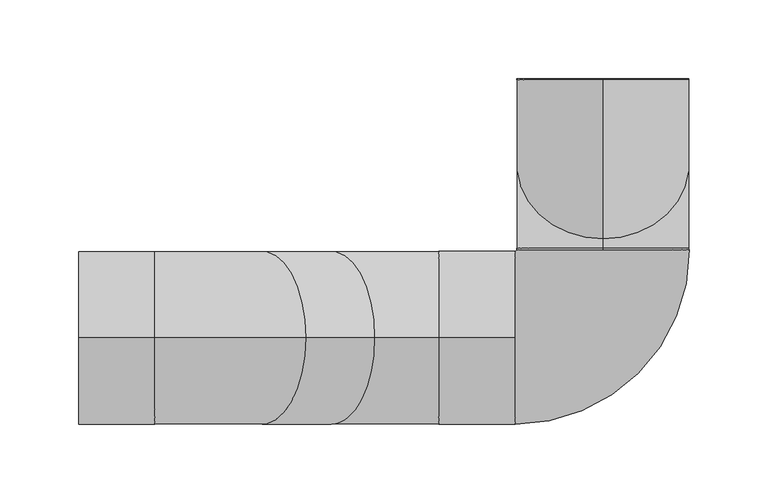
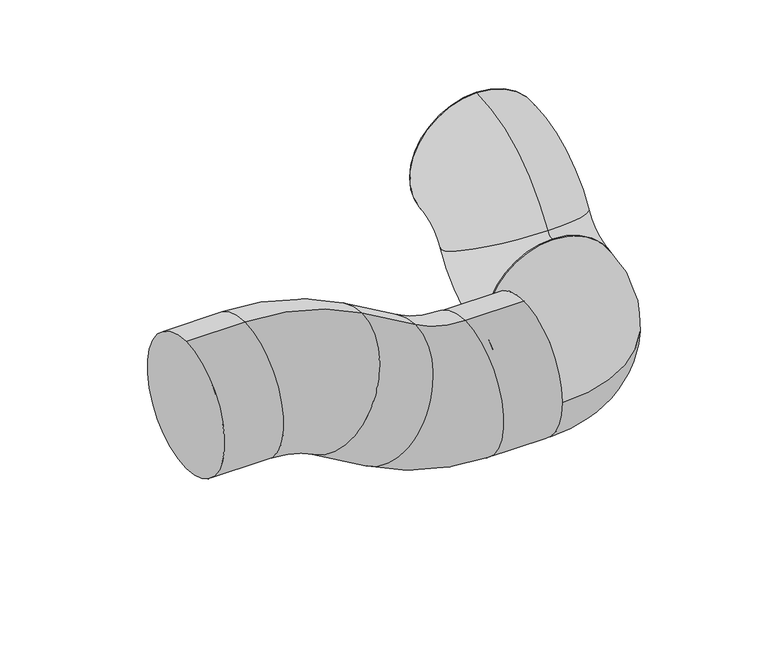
"""IFC4 building model written with IfcOpenShell, lengths in millimetres: pipe fitting geometry, NLRS_52_PIF_UN_PE BackFlip bocht_geb : DN100 / ø110."""

from ifc_helpers import new_model, si_unit, point, frame, origin, place, context, project, spatial, circle_curve, ellipse_curve, trimmed, source, transform, mapped, element, save
from ifc_brep_helpers import plane_surface, cylinder_surface, revolved_surface, advanced_brep


def pipe_fitting_01506ed9(model_context):
    return source(origin(), model_context, "Body", "AdvancedBrep", [
        advanced_brep(
        [(0.0, 56.0, -117.0), (0.0, 56.806425, -117.0), (0.0, 56.806425, -7.0), (0.0, 56.0, -7.0), (55.0, 56.0, -62.0), (-55.0, 56.0, -62.0), (0.0, 158.1313972, -58.5), (0.0, 62.8686028, -3.5), (0.0, 164.193575, 55.0), (0.0, 164.193575, -55.0), (0.0, 165.0, -55.0), (0.0, 165.0, 55.0), (-56.0, 55.0, -62.0), (-56.0, 0.0, -7.0), (-56.0, -55.0, -62.0), (-56.0, 0.0, -117.0), (-189.4393102, 0.0, 29.2980639), (-285.3602417, 0.0, 55.0), (-285.3602417, 0.0, -55.0), (-244.4393102, 0.0, -65.9647305), (-200.5606898, 0.0, -91.2980639), (-145.5606898, 0.0, 3.9647305), (-104.6397583, 0.0, -117.0), (-104.6397583, 0.0, -7.0), (-334.0, 0.0, -55.0), (-334.0, 0.0, 55.0)],
        [
            (0, 1),
            (1, 2, circle_curve(frame((0.0, 56.806425, -62.0), z_axis=(0.0, -1.0, 0.0), x_axis=(0.0, 0.0, 1.0)), 55.0)),
            (2, 3),
            (3, 4, circle_curve(frame((0.0, 56.0, -62.0), z_axis=(0.0, 1.0, 0.0), x_axis=(0.0, 0.0, 1.0)), 55.0)),
            (4, 0, circle_curve(frame((0.0, 56.0, -62.0), z_axis=(0.0, 1.0, 0.0), x_axis=(0.0, 0.0, 1.0)), 55.0)),
            (0, 5, circle_curve(frame((0.0, 56.0, -62.0), z_axis=(0.0, 1.0, 0.0), x_axis=(0.0, 0.0, 1.0)), 55.0)),
            (5, 3, circle_curve(frame((0.0, 56.0, -62.0), z_axis=(0.0, 1.0, 0.0), x_axis=(0.0, 0.0, 1.0)), 55.0)),
            (2, 1, circle_curve(frame((0.0, 56.806425, -62.0), z_axis=(0.0, -1.0, 0.0), x_axis=(0.0, 0.0, 1.0)), 55.0)),
            (1, 6, circle_curve(frame((0.0, 56.806425, 0.0), z_axis=(1.0, 0.0, 0.0), x_axis=(0.0, 0.0, -1.0)), 117.0)),
            (6, 7, circle_curve(frame((0.0, 110.5, -31.0), z_axis=(0.0, -0.4999999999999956, -0.8660254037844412), x_axis=(0.0, -0.8660254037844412, 0.4999999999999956)), 55.0)),
            (7, 2, circle_curve(frame((0.0, 56.806425, 0.0), z_axis=(-1.0, 0.0, 0.0), x_axis=(0.0, 0.0, -1.0)), 7.0)),
            (7, 6, circle_curve(frame((0.0, 110.5, -31.0), z_axis=(0.0, -0.4999999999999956, -0.8660254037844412), x_axis=(0.0, -0.8660254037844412, 0.4999999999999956)), 55.0)),
            (8, 7, circle_curve(frame((0.0, 164.193575, -62.0), z_axis=(1.0, 0.0, 0.0), x_axis=(0.0, -0.8660254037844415, 0.4999999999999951)), 117.0)),
            (6, 9, circle_curve(frame((0.0, 164.193575, -62.0), z_axis=(-1.0, 0.0, 0.0), x_axis=(0.0, -0.8660254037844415, 0.4999999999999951)), 7.0)),
            (9, 8, circle_curve(frame((0.0, 164.193575, 0.0), z_axis=(0.0, -1.0, 0.0), x_axis=(0.0, 0.0, 1.0)), 55.0)),
            (8, 9, circle_curve(frame((0.0, 164.193575, 0.0), z_axis=(0.0, -1.0, 0.0), x_axis=(0.0, 0.0, 1.0)), 55.0)),
            (10, 11, circle_curve(frame((0.0, 165.0, 0.0), z_axis=(0.0, 1.0, 0.0), x_axis=(0.0, 0.0, 1.0)), 55.0)),
            (11, 10, circle_curve(frame((0.0, 165.0, 0.0), z_axis=(0.0, 1.0, 0.0), x_axis=(0.0, 0.0, 1.0)), 55.0)),
            (9, 10),
            (11, 8),
            (5, 12, circle_curve(frame((-56.0, 56.0, -62.0), z_axis=(0.0, 0.0, -1.0), x_axis=(0.0, -1.0, 0.0)), 1.0)),
            (12, 13, circle_curve(frame((-56.0, 0.0, -62.0), z_axis=(1.0, 0.0, 0.0), x_axis=(0.0, 1.0, 0.0)), 55.0)),
            (13, 14, circle_curve(frame((-56.0, 0.0, -62.0), z_axis=(1.0, 0.0, 0.0), x_axis=(0.0, 1.0, 0.0)), 55.0)),
            (14, 4, circle_curve(frame((-56.0, 56.0, -62.0), z_axis=(0.0, 0.0, 1.0), x_axis=(0.0, -1.0, 0.0)), 111.0)),
            (14, 15, circle_curve(frame((-56.0, 0.0, -62.0), z_axis=(1.0, 0.0, 0.0), x_axis=(0.0, 1.0, 0.0)), 55.0)),
            (15, 12, circle_curve(frame((-56.0, 0.0, -62.0), z_axis=(1.0, 0.0, 0.0), x_axis=(0.0, 1.0, 0.0)), 55.0)),
            (16, 17, circle_curve(frame((-285.3602417, 0.0, -136.8418629), z_axis=(0.0, -1.0, 0.0), x_axis=(0.0, 0.0, 1.0)), 191.8418629)),
            (17, 18, circle_curve(frame((-285.3602417, 0.0, 0.0), z_axis=(1.0, 0.0, 0.0), x_axis=(0.0, 0.0, 1.0)), 55.0)),
            (18, 19, circle_curve(frame((-285.3602417, 0.0, -136.8418629), z_axis=(0.0, 1.0, 0.0), x_axis=(0.0, 0.0, 1.0)), 81.8418629)),
            (19, 16, circle_curve(frame((-216.9393102, 0.0, -18.3333333), z_axis=(-0.8660254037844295, 0.0, 0.5000000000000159), x_axis=(0.5000000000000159, 0.0, 0.8660254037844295)), 55.0)),
            (16, 19, circle_curve(frame((-216.9393102, 0.0, -18.3333333), z_axis=(-0.8660254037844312, 0.0, 0.500000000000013), x_axis=(0.500000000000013, 0.0, 0.8660254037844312)), 55.0)),
            (18, 17, circle_curve(frame((-285.3602417, 0.0, 0.0), z_axis=(1.0, 0.0, 0.0), x_axis=(0.0, 0.0, 1.0)), 55.0)),
            (19, 20),
            (20, 21, circle_curve(frame((-173.0606898, 0.0, -43.6666667), z_axis=(-0.8660254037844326, 0.0, 0.5000000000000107), x_axis=(0.5000000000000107, 0.0, 0.8660254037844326)), 55.0)),
            (21, 16),
            (21, 20, circle_curve(frame((-173.0606898, 0.0, -43.6666667), z_axis=(-0.8660254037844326, 0.0, 0.5000000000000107), x_axis=(0.5000000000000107, 0.0, 0.8660254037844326)), 55.0)),
            (20, 22, circle_curve(frame((-104.6397583, 0.0, 74.8418629), z_axis=(0.0, -1.0, 0.0), x_axis=(-0.5000000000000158, 0.0, -0.8660254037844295)), 191.8418629)),
            (22, 23, circle_curve(frame((-104.6397583, 0.0, -62.0), z_axis=(-1.0, 0.0, 0.0), x_axis=(0.0, 0.0, 1.0)), 55.0)),
            (23, 21, circle_curve(frame((-104.6397583, 0.0, 74.8418629), z_axis=(0.0, 1.0, 0.0), x_axis=(-0.5000000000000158, 0.0, -0.8660254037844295)), 81.8418629)),
            (23, 22, circle_curve(frame((-104.6397583, 0.0, -62.0), z_axis=(-0.9999999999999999, 0.0, 0.0), x_axis=(0.0, 0.0, 0.9999999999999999)), 55.0)),
            (24, 25, circle_curve(frame((-334.0, 0.0, 0.0), z_axis=(-1.0, 0.0, 0.0), x_axis=(0.0, 0.0, 1.0)), 55.0)),
            (25, 24, circle_curve(frame((-334.0, 0.0, 0.0), z_axis=(-1.0, 0.0, 0.0), x_axis=(0.0, 0.0, 1.0)), 55.0)),
            (17, 25),
            (24, 18),
            (22, 15),
            (13, 23),
        ],
        [
            cylinder_surface(frame((0.0, 56.0, -62.0), z_axis=(0.0, -1.0, 0.0), x_axis=(0.0, 0.0, 1.0)), 55.0),
            revolved_surface(trimmed(ellipse_curve(frame((0.0, 56.806425, -62.0), z_axis=(0.0, -1.0, 0.0), x_axis=(0.0, 0.0, 1.0)), 55.0, 55.0), [point((0.0, 56.806425, -117.0))], [point((0.0, 56.806425, -7.0))], True, "CARTESIAN"), (0.0, 56.806425, 0.0), (1.0, 0.0, 0.0)),
            revolved_surface(trimmed(ellipse_curve(frame((0.0, 56.806425, -62.0), z_axis=(0.0, -1.0, 0.0), x_axis=(0.0, 0.0, 1.0)), 55.0, 55.0), [point((0.0, 56.806425, -7.0))], [point((0.0, 56.806425, -117.0))], True, "CARTESIAN"), (0.0, 56.806425, 0.0), (1.0, 0.0, 0.0)),
            revolved_surface(trimmed(ellipse_curve(frame((0.0, 110.5, -31.0), z_axis=(0.0, -0.4999999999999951, -0.8660254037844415), x_axis=(0.0, -0.8660254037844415, 0.4999999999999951)), 55.0, 55.0), [point((0.0, 158.1313972, -58.5))], [point((0.0, 62.8686028, -3.5))], True, "CARTESIAN"), (0.0, 164.193575, -62.0), (-1.0, 0.0, 0.0)),
            revolved_surface(trimmed(ellipse_curve(frame((0.0, 110.5, -31.0), z_axis=(0.0, -0.4999999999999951, -0.8660254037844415), x_axis=(0.0, -0.8660254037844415, 0.4999999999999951)), 55.0, 55.0), [point((0.0, 62.8686028, -3.5))], [point((0.0, 158.1313972, -58.5))], True, "CARTESIAN"), (0.0, 164.193575, -62.0), (-1.0, 0.0, 0.0)),
            plane_surface(frame((0.0, 165.0, 0.0), z_axis=(0.0, 1.0, 0.0), x_axis=(1.0, 0.0, 0.0))),
            cylinder_surface(frame((0.0, 164.193575, 0.0), z_axis=(0.0, -1.0, 0.0), x_axis=(0.0, 0.0, 1.0)), 55.0),
            revolved_surface(trimmed(ellipse_curve(frame((-56.0, 0.0, -62.0), z_axis=(-1.0, 0.0, 0.0), x_axis=(0.0, 1.0, 0.0)), 55.0, 55.0), [point((-56.0, -55.0, -62.0))], [point((-56.0, 55.0, -62.0))], True, "CARTESIAN"), (-56.0, 56.0, -62.0), (0.0, 0.0, 1.0)),
            revolved_surface(trimmed(ellipse_curve(frame((-56.0, 0.0, -62.0), z_axis=(-1.0, 0.0, 0.0), x_axis=(0.0, 1.0, 0.0)), 55.0, 55.0), [point((-56.0, 55.0, -62.0))], [point((-56.0, -55.0, -62.0))], True, "CARTESIAN"), (-56.0, 56.0, -62.0), (0.0, 0.0, 1.0)),
            revolved_surface(trimmed(ellipse_curve(frame((-285.3602417, 0.0, 0.0), z_axis=(-1.0, 0.0, 0.0), x_axis=(0.0, 0.0, 1.0)), 55.0, 55.0), [point((-285.3602417, 0.0, -55.0))], [point((-285.3602417, 0.0, 55.0))], True, "CARTESIAN"), (-285.3602417, 0.0, -136.8418629), (0.0, 1.0, 0.0)),
            revolved_surface(trimmed(ellipse_curve(frame((-285.3602417, 0.0, 0.0), z_axis=(-1.0, 0.0, 0.0), x_axis=(0.0, 0.0, 1.0)), 55.0, 55.0), [point((-285.3602417, 0.0, 55.0))], [point((-285.3602417, 0.0, -55.0))], True, "CARTESIAN"), (-285.3602417, 0.0, -136.8418629), (0.0, 1.0, 0.0)),
            cylinder_surface(frame((-216.9393102, 0.0, -18.3333333), z_axis=(-0.8660254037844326, 0.0, 0.5000000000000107), x_axis=(0.5000000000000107, 0.0, 0.8660254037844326)), 55.0),
            revolved_surface(trimmed(ellipse_curve(frame((-173.0606898, 0.0, -43.6666667), z_axis=(-0.8660254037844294, 0.0, 0.500000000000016), x_axis=(0.500000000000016, 0.0, 0.8660254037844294)), 55.0, 55.0), [point((-200.5606898, 0.0, -91.2980639))], [point((-145.5606898, 0.0, 3.9647305))], True, "CARTESIAN"), (-104.6397583, 0.0, 74.8418629), (0.0, -1.0, 0.0)),
            revolved_surface(trimmed(ellipse_curve(frame((-173.0606898, 0.0, -43.6666667), z_axis=(-0.8660254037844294, 0.0, 0.500000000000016), x_axis=(0.500000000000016, 0.0, 0.8660254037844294)), 55.0, 55.0), [point((-145.5606898, 0.0, 3.9647305))], [point((-200.5606898, 0.0, -91.2980639))], True, "CARTESIAN"), (-104.6397583, 0.0, 74.8418629), (0.0, -1.0, 0.0)),
            plane_surface(frame((-334.0, 0.0, 0.0), z_axis=(-1.0, 0.0, 0.0), x_axis=(0.0, -1.0, 0.0))),
            cylinder_surface(frame((-334.0, 0.0, 0.0), z_axis=(-1.0, 0.0, 0.0), x_axis=(0.0, 0.0, 1.0)), 55.0),
            cylinder_surface(frame((-104.6397583, 0.0, -62.0), z_axis=(-1.0, 0.0, 0.0), x_axis=(0.0, 0.0, 1.0)), 55.0),
        ],
        [
            (0, [[1, 2, 3, 4, 5]]),
            (0, [[-1, 6, 7, -3, 8]]),
            (1, [[-2, 9, 10, 11]]),
            (2, [[-8, -11, 12, -9]]),
            (3, [[13, -10, 14, 15]]),
            (4, [[-13, 16, -14, -12]]),
            (5, [[17, 18]]),
            (6, [[-15, 19, -18, 20]]),
            (6, [[-16, -20, -17, -19]]),
            (7, [[21, 22, 23, 24, -4, -7]]),
            (8, [[-21, -6, -5, -24, 25, 26]]),
            (9, [[27, 28, 29, 30]]),
            (10, [[-27, 31, -29, 32]]),
            (11, [[-30, 33, 34, 35]]),
            (11, [[-31, -35, 36, -33]]),
            (12, [[-34, 37, 38, 39]]),
            (13, [[-36, -39, 40, -37]]),
            (14, [[41, 42]]),
            (15, [[-28, 43, -41, 44]]),
            (15, [[-32, -44, -42, -43]]),
            (16, [[-38, 45, -25, -23, 46]]),
            (16, [[-40, -46, -22, -26, -45]]),
        ],
    ),
    ])


if __name__ == "__main__":
    model = new_model("IFC4")
    model_context = context("Model", 3, world=origin())
    ifc_project = project(units=[si_unit("LENGTHUNIT", "METRE", prefix="MILLI")], contexts=[model_context])
    site = spatial("IfcSite", under=ifc_project)
    building = spatial("IfcBuilding", under=site)
    placement = place(None, origin())
    pipe_fitting_shape = pipe_fitting_01506ed9(model_context)
    element("IfcPipeFitting", 1, ObjectType="NLRS_52_PIF_UN_PE BackFlip bocht_geb : DN100 / ø110", at=placement, inside=building, context=model_context, shape_type="MappedRepresentation", body=[
        mapped(pipe_fitting_shape, transform((0.0, 0.0, 0.0), x_axis=(1.0, 0.0, 0.0), y_axis=(0.0, 1.0, 0.0), z_axis=(0.0, 0.0, 1.0))),
    ])
    save(model, "model.ifc")
